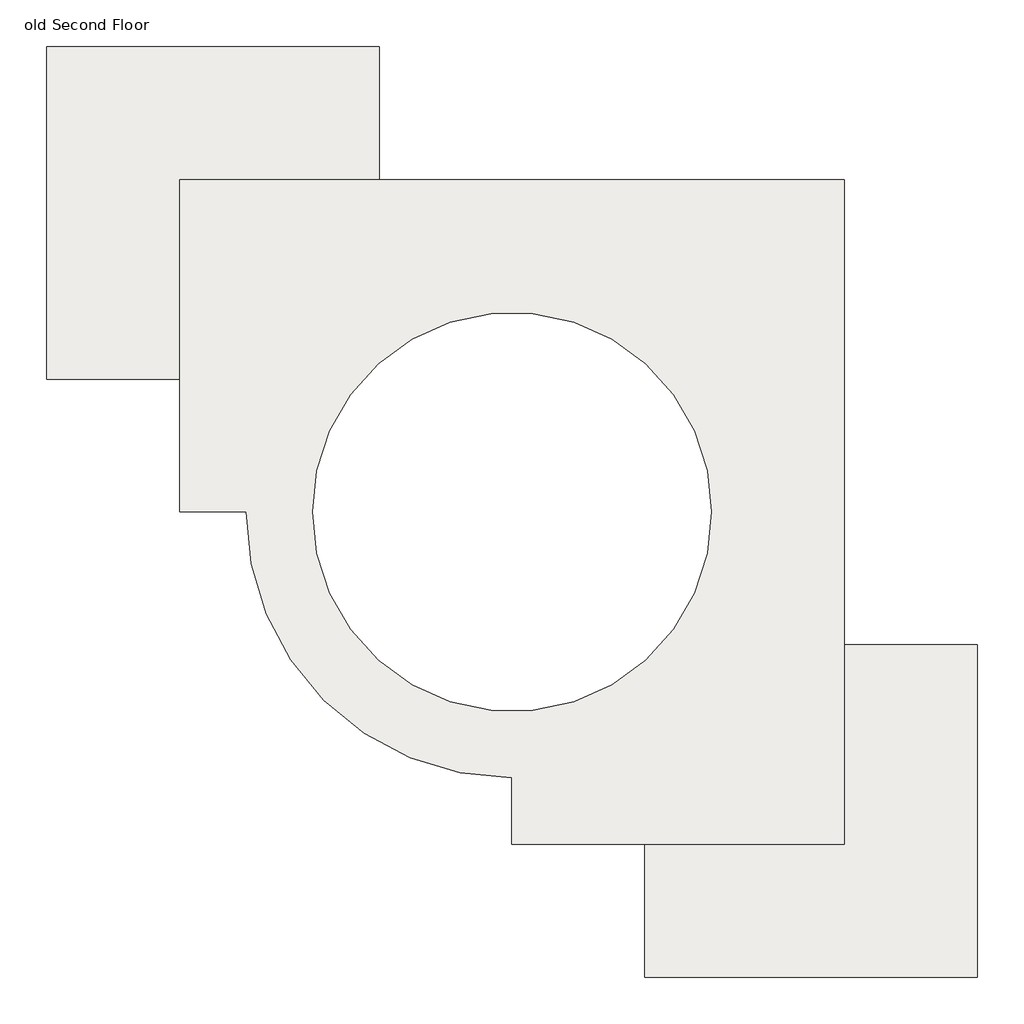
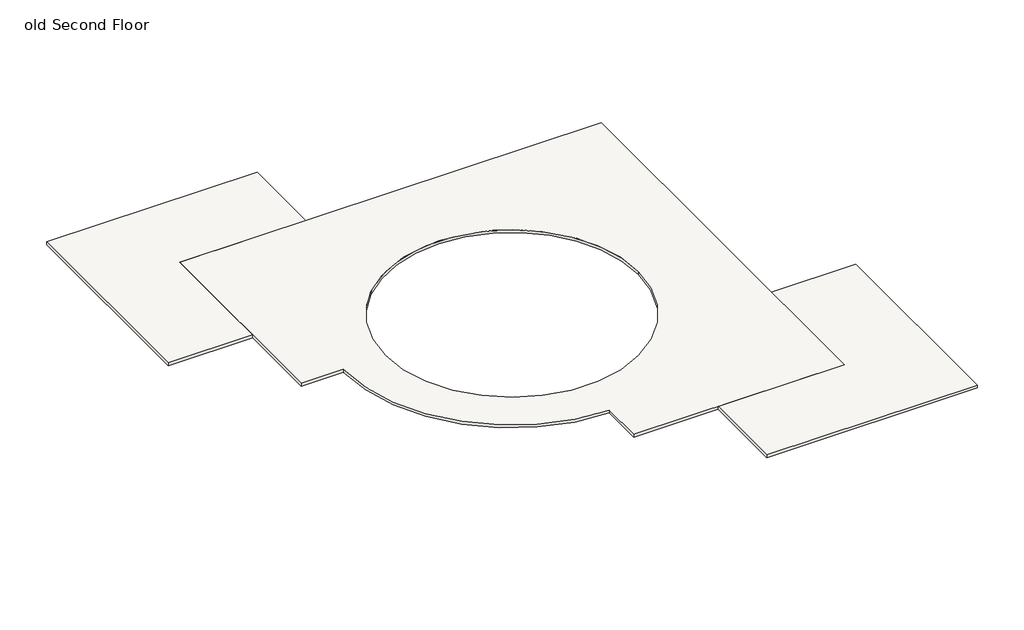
# One storey: 2 slabs.
"""IFC4 building model written with IfcOpenShell, lengths in millimetres."""

import ifcopenshell
import ifcopenshell.guid

model = None  # the IFC model being written
_history = None  # IfcOwnerHistory: only IFC2X3 demands one
_inside = {}  # id of a spatial element -> (the spatial element, [elements in it])
_under = {}  # id of a project, library or spatial element -> (it, [spatial elements below it])
_declared = {}  # id of a project -> (the project, [libraries it declares])
_typed = {}  # id of a type object -> (the type object, [elements of that type])
_made_of = {}  # id of a material, layer set ... -> (it, [elements and type objects made of it])


def new_model(schema):
    """Start an empty IFC model of exactly this schema.

    Asked for "IFC4X3", IfcOpenShell would pick the latest addendum, in which some entities
    have other attributes; the version numbers below select the first issue.
    IFC2X3 requires an IfcOwnerHistory on every rooted entity: one is made here for all.
    """
    global model, _history
    if schema == "IFC4X3":
        model = ifcopenshell.file(schema_version=(4, 3, 0, 0))
    else:
        model = ifcopenshell.file(schema=schema)
    _inside.clear()
    _under.clear()
    _declared.clear()
    _typed.clear()
    _made_of.clear()
    _history = None
    if model.schema == "IFC2X3":
        org = make("IfcOrganization", Name="unknown")
        user = make(
            "IfcPersonAndOrganization",
            ThePerson=make("IfcPerson", FamilyName="unknown"),
            TheOrganization=org,
        )
        app = make(
            "IfcApplication",
            ApplicationDeveloper=org,
            Version="unknown",
            ApplicationFullName="unknown",
            ApplicationIdentifier="unknown",
        )
        _history = make(
            "IfcOwnerHistory",
            OwningUser=user,
            OwningApplication=app,
            ChangeAction="ADDED",
            CreationDate=0,
        )
    return model


def make(cls, **values):
    """One entity of the class cls with the attributes given. An attribute that is None is left unset."""
    return model.create_entity(
        cls, **{name: value for name, value in values.items() if value is not None}
    )


def rooted(cls, **values):
    """An entity with a GlobalId (a new one), such as an element, a storey or a relation."""
    return make(cls, GlobalId=ifcopenshell.guid.new(), OwnerHistory=_history, **values)


def si_unit(unit_type, name, prefix=None):
    """IfcSIUnit, for example si_unit("LENGTHUNIT", "METRE", prefix="MILLI")."""
    return make("IfcSIUnit", UnitType=unit_type, Prefix=prefix, Name=name)


def assignment(units):
    """IfcUnitAssignment: the units of a project."""
    return None if units is None else make("IfcUnitAssignment", Units=units)


def point(xyz):
    """IfcCartesianPoint."""
    return None if xyz is None else make("IfcCartesianPoint", Coordinates=xyz)


def direction(xyz):
    """IfcDirection."""
    return None if xyz is None else make("IfcDirection", DirectionRatios=xyz)


def frame(location, z_axis=None, x_axis=None):
    """IfcAxis2Placement3D, a coordinate frame: its origin and axes. An axis left out is left unset."""
    return make(
        "IfcAxis2Placement3D",
        Location=point(location),
        Axis=direction(z_axis),
        RefDirection=direction(x_axis),
    )


def frame_2d(location, x_axis=None):
    """IfcAxis2Placement2D, a coordinate frame in the plane: its origin and x axis."""
    return make(
        "IfcAxis2Placement2D", Location=point(location), RefDirection=direction(x_axis)
    )


def origin():
    """The frame at (0, 0, 0) with its axes left unset."""
    return frame((0.0, 0.0, 0.0))


def place(relative_to, where):
    """IfcLocalPlacement: puts the frame where relative to a parent placement (None: the world)."""
    return make(
        "IfcLocalPlacement", PlacementRelTo=relative_to, RelativePlacement=where
    )


def context(
    kind, dimensions, precision=None, world=None, true_north=None, identifier=None
):
    """IfcGeometricRepresentationContext, for example the 3D "Model" context."""
    return make(
        "IfcGeometricRepresentationContext",
        ContextIdentifier=identifier,
        ContextType=kind,
        CoordinateSpaceDimension=dimensions,
        Precision=precision,
        WorldCoordinateSystem=world,
        TrueNorth=true_north,
    )


def project(units=None, contexts=None):
    """IfcProject with its units and contexts."""
    return rooted(
        "IfcProject",
        Name="project",
        RepresentationContexts=contexts,
        UnitsInContext=assignment(units),
    )


def spatial(cls, under=None, at=None, **own):
    """A site, building, storey or space (cls), placed at a placement, below another one or the project."""
    s = rooted(cls, ObjectPlacement=at, **own)
    if under is not None:
        _under.setdefault(under.id(), (under, []))[1].append(s)
    return s


def polyline(points):
    """IfcPolyline through the points."""
    return make("IfcPolyline", Points=[point(p) for p in points])


def circle_curve(where, radius):
    """IfcCircle in the frame where."""
    return make("IfcCircle", Position=where, Radius=radius)


def trimmed(basis, trim1, trim2, sense, master):
    """IfcTrimmedCurve: the piece of a basis curve between two trims."""
    return make(
        "IfcTrimmedCurve",
        BasisCurve=basis,
        Trim1=trim1,
        Trim2=trim2,
        SenseAgreement=sense,
        MasterRepresentation=master,
    )


def segment(curve, same_sense, transition):
    """IfcCompositeCurveSegment."""
    return make(
        "IfcCompositeCurveSegment",
        Transition=transition,
        SameSense=same_sense,
        ParentCurve=curve,
    )


def composite_curve(segments, self_intersect=None):
    """IfcCompositeCurve: segments joined end to end."""
    return make("IfcCompositeCurve", Segments=segments, SelfIntersect=self_intersect)


def outline(outer, holes=None, kind="AREA"):
    """IfcArbitraryClosedProfileDef: a profile drawn as a closed curve; with holes, ...WithVoids."""
    if holes is None:
        return make("IfcArbitraryClosedProfileDef", ProfileType=kind, OuterCurve=outer)
    return make(
        "IfcArbitraryProfileDefWithVoids",
        ProfileType=kind,
        OuterCurve=outer,
        InnerCurves=holes,
    )


def extrude(swept, where, along, depth):
    """IfcExtrudedAreaSolid: the profile swept, set in the frame where, extruded along a direction by depth."""
    return make(
        "IfcExtrudedAreaSolid",
        SweptArea=swept,
        Position=where,
        ExtrudedDirection=direction(along),
        Depth=depth,
    )


def shape(context_of_items, identifier, shape_type, items):
    """IfcShapeRepresentation: the items that make up one representation, for example the "Body"."""
    return make(
        "IfcShapeRepresentation",
        ContextOfItems=context_of_items,
        RepresentationIdentifier=identifier,
        RepresentationType=shape_type,
        Items=items,
    )


def made_of(thing, what):
    """Note that an element or type object is made of a material, layer set ...; save() writes the relation."""
    if what is not None:
        _made_of.setdefault(what.id(), (what, []))[1].append(thing)
    return thing


def element(
    cls,
    number,
    at=None,
    inside=None,
    cuts=None,
    type_object=None,
    material=None,
    context=None,
    identifier="Body",
    shape_type=None,
    held_by="IfcProductDefinitionShape",
    body=None,
    shapes=None,
    **own,
):
    """One element of the class cls, such as IfcWall. Its Tag is "e" and its number.

    at: its placement. inside: the storey or other place that contains it. cuts: it is an
    opening in that element (IfcRelVoidsElement). A single representation is given by context,
    identifier, shape_type and body (its items); several are given by shapes. held_by: the class
    of the entity that holds the representations. save() writes the other relations.
    """
    e = rooted(cls, Tag="e%d" % number, ObjectPlacement=at, **own)
    if body is not None:
        shapes = [shape(context, identifier, shape_type, body)]
    if shapes is not None:
        e.Representation = make(held_by, Representations=shapes)
    if inside is not None:
        _inside.setdefault(inside.id(), (inside, []))[1].append(e)
    if cuts is not None:
        rooted(
            "IfcRelVoidsElement", RelatingBuildingElement=cuts, RelatedOpeningElement=e
        )
    if type_object is not None:
        _typed.setdefault(type_object.id(), (type_object, []))[1].append(e)
    return made_of(e, material)


def aggregate(whole, parts):
    """IfcRelAggregates: a whole, such as a stair, and the parts it consists of."""
    return rooted("IfcRelAggregates", RelatingObject=whole, RelatedObjects=parts)


def save(model, path):
    """Write the relations noted so far, then the file.

    IfcRelAggregates (storeys below a building ...), IfcRelContainedInSpatialStructure (elements
    in a storey), IfcRelDefinesByType, IfcRelAssociatesMaterial and IfcRelDeclares: one each for
    every whole, place, type object, material and project.
    """
    for whole, parts in _under.values():
        aggregate(whole, parts)
    for where, things in _inside.values():
        rooted(
            "IfcRelContainedInSpatialStructure",
            RelatedElements=things,
            RelatingStructure=where,
        )
    for kind, things in _typed.values():
        rooted("IfcRelDefinesByType", RelatedObjects=things, RelatingType=kind)
    for what, things in _made_of.values():
        rooted("IfcRelAssociatesMaterial", RelatedObjects=things, RelatingMaterial=what)
    for by, libraries in _declared.values():
        rooted("IfcRelDeclares", RelatingContext=by, RelatedDefinitions=libraries)
    model.write(path)


model = new_model("IFC4")

# Units and contexts
model_context = context("Model", 3, world=origin())
ifc_project = project(units=[si_unit("LENGTHUNIT", "METRE", prefix="MILLI")], contexts=[model_context])

# Site, building, storey
site = spatial("IfcSite", under=ifc_project)
building = spatial("IfcBuilding", under=site)
storey = spatial("IfcBuildingStorey", under=building, Name="old Second Floor", Elevation=3048.0)

# Slabs
placement = place(None, origin())
element("IfcSlab", 1, ObjectType="LW Concrete on Metal Deck", at=placement, inside=storey, context=model_context, shape_type="SweptSolid", body=[
    extrude(outline(composite_curve([segment(polyline([(7308.8955952, 7299.8851347), (7308.8955952, -7940.1148653), (-311.1044048, -7940.1148653), (-311.1044048, -6416.1148653)]), True, "CONTINUOUS"), segment(trimmed(circle_curve(frame_2d((-311.1044048, -320.1148653)), 6096.0), [point((-311.1044048, -6416.1148653))], [point((-6407.1044048, -320.1148653))], False, "CARTESIAN"), True, "CONTINUOUS"), segment(polyline([(-6407.1044048, -320.1148653), (-7931.1044048, -320.1148653), (-7931.1044048, 7299.8851347), (7308.8955952, 7299.8851347)]), True, "CONTINUOUS")], self_intersect=False), holes=[composite_curve([segment(trimmed(circle_curve(frame_2d((-311.1044048, -320.1148653)), 4572.0), [point((4260.8955952, -320.1148653))], [point((-4883.1044048, -320.1148653))], True, "CARTESIAN"), True, "CONTINUOUS"), segment(trimmed(circle_curve(frame_2d((-311.1044048, -320.1148653)), 4572.0), [point((-4883.1044048, -320.1148653))], [point((4260.8955952, -320.1148653))], True, "CARTESIAN"), True, "CONTINUOUS")], self_intersect=False)]), frame((0.0, 0.0, 2943.225), z_axis=(0.0, 0.0, 1.0), x_axis=(1.0, 0.0, 0.0)), (0.0, 0.0, 1.0), 104.775),
])
element("IfcSlab", 2, ObjectType="LW Concrete on Metal Deck", at=placement, inside=storey, context=model_context, shape_type="SweptSolid", body=[
    extrude(outline(polyline([(-3359.1044048, 10347.8851347), (-3359.1044048, 7299.8851347), (-7931.1044048, 7299.8851347), (-7931.1044048, 2727.8851347), (-10979.1044048, 2727.8851347), (-10979.1044048, 10347.8851347), (-3359.1044048, 10347.8851347)])), frame((0.0, 0.0, 2943.225), z_axis=(0.0, 0.0, 1.0), x_axis=(1.0, 0.0, 0.0)), (0.0, 0.0, 1.0), 104.775),
    extrude(outline(polyline([(10356.8955952, -3368.1148653), (10356.8955952, -10988.1148653), (2736.8955952, -10988.1148653), (2736.8955952, -7940.1148653), (7308.8955952, -7940.1148653), (7308.8955952, -3368.1148653), (10356.8955952, -3368.1148653)])), frame((0.0, 0.0, 2943.225), z_axis=(0.0, 0.0, 1.0), x_axis=(1.0, 0.0, 0.0)), (0.0, 0.0, 1.0), 104.775),
])

save(model, "model.ifc")
